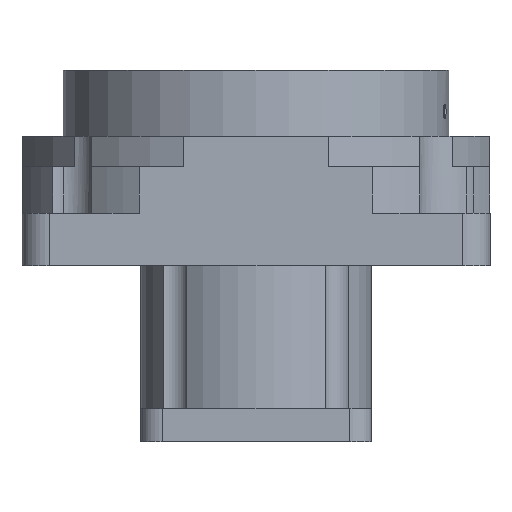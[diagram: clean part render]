
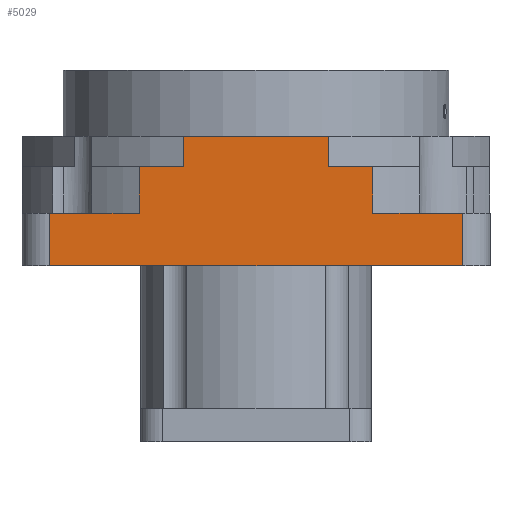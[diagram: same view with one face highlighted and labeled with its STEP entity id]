
A CAD part, left-side view. The second image highlights one B-rep face of the part: STEP entity #5029.
In plain terms, the highlighted planar face has unit normal (-1, 0, 0).
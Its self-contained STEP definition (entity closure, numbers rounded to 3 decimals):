
#136 = VERTEX_POINT ( 'NONE', #510 ) ;
#244 = VECTOR ( 'NONE', #13634, 1000. ) ;
#352 = VECTOR ( 'NONE', #5116, 1000. ) ;
#496 = CARTESIAN_POINT ( 'NONE',  ( -47.37, -16.326, 101.75 ) ) ;
#499 = ORIENTED_EDGE ( 'NONE', *, *, #5150, .T. ) ;
#510 = CARTESIAN_POINT ( 'NONE',  ( -47.37, 18.078, 115.75 ) ) ;
#674 = VERTEX_POINT ( 'NONE', #799 ) ;
#799 = CARTESIAN_POINT ( 'NONE',  ( -47.37, -16.326, 110.25 ) ) ;
#1492 = EDGE_CURVE ( 'NONE', #7647, #5685, #5980, .T. ) ;
#1832 = ORIENTED_EDGE ( 'NONE', *, *, #14231, .T. ) ;
#1859 = VERTEX_POINT ( 'NONE', #3696 ) ;
#1971 = VERTEX_POINT ( 'NONE', #2768 ) ;
#2001 = CARTESIAN_POINT ( 'NONE',  ( -47.37, -32.613, 92.25 ) ) ;
#2025 = EDGE_CURVE ( 'NONE', #7939, #13556, #3806, .T. ) ;
#2030 = CARTESIAN_POINT ( 'NONE',  ( -47.37, 42.387, 92.25 ) ) ;
#2562 = VECTOR ( 'NONE', #5108, 1000. ) ;
#2706 = VECTOR ( 'NONE', #8643, 1000. ) ;
#2733 = ORIENTED_EDGE ( 'NONE', *, *, #12146, .T. ) ;
#2765 = CARTESIAN_POINT ( 'NONE',  ( -47.37, 42.387, 101.75 ) ) ;
#2768 = CARTESIAN_POINT ( 'NONE',  ( -47.37, -8.304, 115.75 ) ) ;
#2799 = CARTESIAN_POINT ( 'NONE',  ( -47.37, 26.1, 101.75 ) ) ;
#3527 = DIRECTION ( 'NONE',  ( 0., 0., -1. ) ) ;
#3648 = DIRECTION ( 'NONE',  ( 0., -1., 0. ) ) ;
#3696 = CARTESIAN_POINT ( 'NONE',  ( -47.37, 26.1, 101.75 ) ) ;
#3806 = LINE ( 'NONE', #4001, #352 ) ;
#3931 = VECTOR ( 'NONE', #12641, 1000. ) ;
#3959 = EDGE_CURVE ( 'NONE', #674, #12844, #10897, .T. ) ;
#4001 = CARTESIAN_POINT ( 'NONE',  ( -47.37, -32.613, 92.25 ) ) ;
#4085 = ORIENTED_EDGE ( 'NONE', *, *, #8139, .T. ) ;
#4139 = ORIENTED_EDGE ( 'NONE', *, *, #1492, .T. ) ;
#4237 = ORIENTED_EDGE ( 'NONE', *, *, #2025, .T. ) ;
#4366 = EDGE_LOOP ( 'NONE', ( #1832, #4085, #5590, #4237, #11602, #499, #14427, #10507, #5223, #2733, #4139, #5888 ) ) ;
#4410 = DIRECTION ( 'NONE',  ( 0., 0., 1. ) ) ;
#4556 = DIRECTION ( 'NONE',  ( 0., 0., 1. ) ) ;
#4834 = CARTESIAN_POINT ( 'NONE',  ( -47.37, -37.613, 92.25 ) ) ;
#4918 = VECTOR ( 'NONE', #7183, 1000. ) ;
#4929 = VECTOR ( 'NONE', #3648, 1000. ) ;
#5029 = ADVANCED_FACE ( 'NONE', ( #13785 ), #6622, .T. ) ;
#5108 = DIRECTION ( 'NONE',  ( 0., 0., -1. ) ) ;
#5116 = DIRECTION ( 'NONE',  ( 0., 0., 1. ) ) ;
#5150 = EDGE_CURVE ( 'NONE', #12770, #674, #12737, .T. ) ;
#5223 = ORIENTED_EDGE ( 'NONE', *, *, #8157, .F. ) ;
#5271 = VECTOR ( 'NONE', #6042, 1000. ) ;
#5565 = LINE ( 'NONE', #6247, #2562 ) ;
#5590 = ORIENTED_EDGE ( 'NONE', *, *, #9730, .T. ) ;
#5685 = VERTEX_POINT ( 'NONE', #8859 ) ;
#5846 = CARTESIAN_POINT ( 'NONE',  ( -47.37, -8.304, 110.25 ) ) ;
#5888 = ORIENTED_EDGE ( 'NONE', *, *, #6555, .T. ) ;
#5980 = LINE ( 'NONE', #7173, #5271 ) ;
#6006 = VERTEX_POINT ( 'NONE', #2765 ) ;
#6042 = DIRECTION ( 'NONE',  ( 0., 1., 0. ) ) ;
#6054 = CARTESIAN_POINT ( 'NONE',  ( -47.37, -37.613, 110.25 ) ) ;
#6247 = CARTESIAN_POINT ( 'NONE',  ( -47.37, 18.078, 110.25 ) ) ;
#6412 = VECTOR ( 'NONE', #4556, 1000. ) ;
#6555 = EDGE_CURVE ( 'NONE', #5685, #1859, #13246, .T. ) ;
#6564 = LINE ( 'NONE', #10247, #6915 ) ;
#6622 = PLANE ( 'NONE',  #11415 ) ;
#6628 = CARTESIAN_POINT ( 'NONE',  ( -47.37, 18.078, 110.25 ) ) ;
#6915 = VECTOR ( 'NONE', #3527, 1000. ) ;
#7173 = CARTESIAN_POINT ( 'NONE',  ( -47.37, -37.613, 110.25 ) ) ;
#7183 = DIRECTION ( 'NONE',  ( 0., 1., 0. ) ) ;
#7647 = VERTEX_POINT ( 'NONE', #6628 ) ;
#7939 = VERTEX_POINT ( 'NONE', #2001 ) ;
#8139 = EDGE_CURVE ( 'NONE', #6006, #11622, #6564, .T. ) ;
#8157 = EDGE_CURVE ( 'NONE', #136, #1971, #9184, .T. ) ;
#8174 = CARTESIAN_POINT ( 'NONE',  ( -47.37, -37.613, 101.75 ) ) ;
#8643 = DIRECTION ( 'NONE',  ( 0., 1., 0. ) ) ;
#8679 = LINE ( 'NONE', #13106, #2706 ) ;
#8859 = CARTESIAN_POINT ( 'NONE',  ( -47.37, 26.1, 110.25 ) ) ;
#9021 = CARTESIAN_POINT ( 'NONE',  ( -47.37, -16.326, 101.75 ) ) ;
#9036 = LINE ( 'NONE', #5846, #14293 ) ;
#9184 = LINE ( 'NONE', #12523, #244 ) ;
#9730 = EDGE_CURVE ( 'NONE', #11622, #7939, #14224, .T. ) ;
#9903 = LINE ( 'NONE', #8174, #3931 ) ;
#10247 = CARTESIAN_POINT ( 'NONE',  ( -47.37, 42.387, 92.25 ) ) ;
#10398 = CARTESIAN_POINT ( 'NONE',  ( -47.37, -32.613, 101.75 ) ) ;
#10505 = EDGE_CURVE ( 'NONE', #13556, #12770, #8679, .T. ) ;
#10507 = ORIENTED_EDGE ( 'NONE', *, *, #13511, .T. ) ;
#10659 = DIRECTION ( 'NONE',  ( 0., 0., -1. ) ) ;
#10897 = LINE ( 'NONE', #6054, #4918 ) ;
#11148 = DIRECTION ( 'NONE',  ( -1., 0., 0. ) ) ;
#11415 = AXIS2_PLACEMENT_3D ( 'NONE', #13337, #11148, #4410 ) ;
#11602 = ORIENTED_EDGE ( 'NONE', *, *, #10505, .T. ) ;
#11622 = VERTEX_POINT ( 'NONE', #2030 ) ;
#12146 = EDGE_CURVE ( 'NONE', #136, #7647, #5565, .T. ) ;
#12523 = CARTESIAN_POINT ( 'NONE',  ( -47.37, -37.613, 115.75 ) ) ;
#12570 = DIRECTION ( 'NONE',  ( 0., 0., 1. ) ) ;
#12641 = DIRECTION ( 'NONE',  ( 0., 1., 0. ) ) ;
#12737 = LINE ( 'NONE', #9021, #6412 ) ;
#12770 = VERTEX_POINT ( 'NONE', #496 ) ;
#12844 = VERTEX_POINT ( 'NONE', #13651 ) ;
#12885 = VECTOR ( 'NONE', #10659, 1000. ) ;
#13106 = CARTESIAN_POINT ( 'NONE',  ( -47.37, -37.613, 101.75 ) ) ;
#13246 = LINE ( 'NONE', #2799, #12885 ) ;
#13337 = CARTESIAN_POINT ( 'NONE',  ( -47.37, -37.613, 92.25 ) ) ;
#13511 = EDGE_CURVE ( 'NONE', #12844, #1971, #9036, .T. ) ;
#13556 = VERTEX_POINT ( 'NONE', #10398 ) ;
#13634 = DIRECTION ( 'NONE',  ( 0., -1., 0. ) ) ;
#13651 = CARTESIAN_POINT ( 'NONE',  ( -47.37, -8.304, 110.25 ) ) ;
#13785 = FACE_OUTER_BOUND ( 'NONE', #4366, .T. ) ;
#14224 = LINE ( 'NONE', #4834, #4929 ) ;
#14231 = EDGE_CURVE ( 'NONE', #1859, #6006, #9903, .T. ) ;
#14293 = VECTOR ( 'NONE', #12570, 1000. ) ;
#14427 = ORIENTED_EDGE ( 'NONE', *, *, #3959, .T. ) ;
